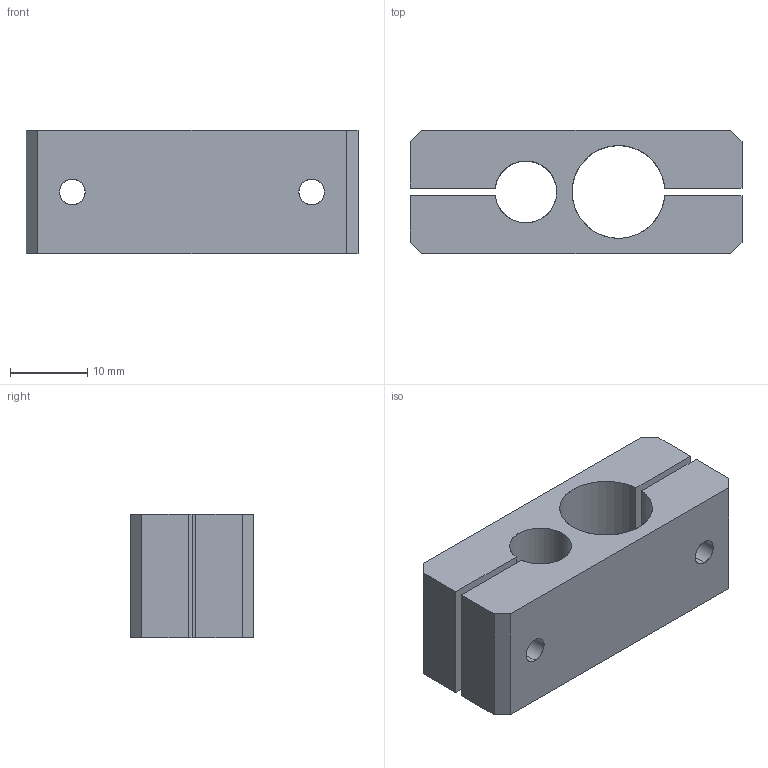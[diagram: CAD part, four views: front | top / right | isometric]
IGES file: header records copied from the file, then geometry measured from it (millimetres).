
Start section: SolidWorks IGES file using analytic representation for surfaces
Global section: file name: C:\Documents and Settings\CAD53\デスクトップ\IGES\N01861-101-1.IGS; native system: SolidWorks 2005 by SolidWorks Corporation; preprocessor: SolidWorks 2005 by SolidWorks Corporation; author: CAD53; date: 070530.100656; units: millimetre
Bounding box: 43 x 16 x 16 mm (x, y, z)
Surface area: 4802.6 mm2 (no closed solid volume)
Topology: 0 solids, 0 shells, 33 faces, 656 edges, 656 vertices
Faces by surface type: bspline 18, revolution 15
